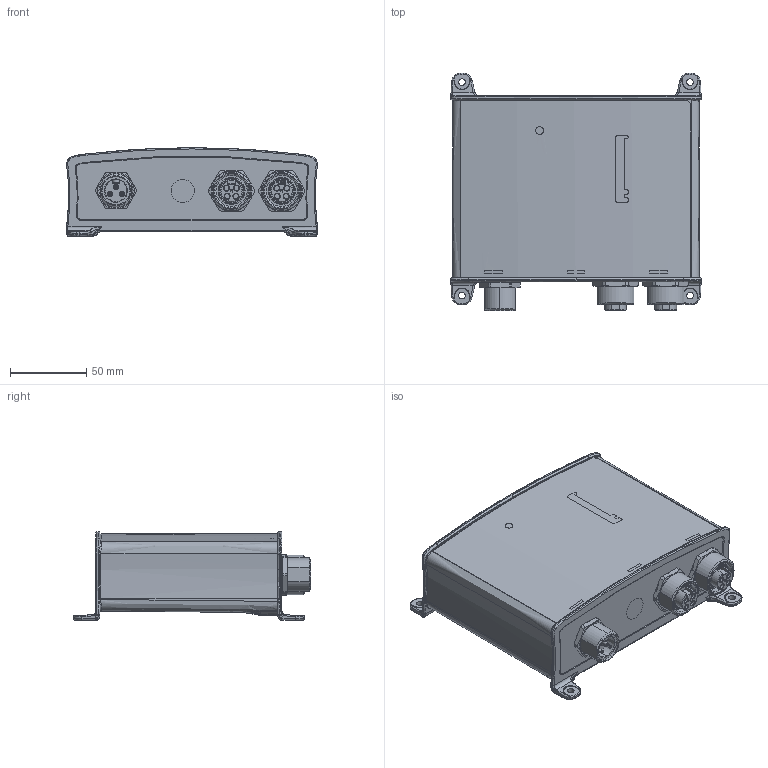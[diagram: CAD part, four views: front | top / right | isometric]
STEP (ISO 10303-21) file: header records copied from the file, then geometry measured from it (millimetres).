
FILE_DESCRIPTION (( 'STEP AP214' ), '1' );
FILE_NAME ('A-472_00 TLA assy 100W - 1007416-000SWA03.STP', '2026-03-12T07:46:41', ( '' ), ( '' ), 'SwSTEP 2.0', 'SolidWorks 2024', '' );
FILE_SCHEMA (( 'AUTOMOTIVE_DESIGN' ));
Length unit declared in the file: millimetre
Products named in the file (9): 1025452_000; 1027129_000; 1007410_000_without_cutout_with_overlay; 1022707_000_Black; A-472_00 TLA assy 100W - 1007416-000SWA03; 1025432_000_Standard; 1022708_000_BLACK; 1037861_000; 1015411_000_Feat_Config
Assembly tree (9 placements, depth 2):
  A-472_00 TLA assy 100W - 1007416-000SWA03
    1022707_000_Black
    1022708_000_BLACK
    1015411_000_Feat_Config
    1027129_000  x2
    1025452_000
    1025432_000_Standard
    1037861_000
    1007410_000_without_cutout_with_overlay
Bounding box: 164.8 x 156.25 x 58.24 mm (x, y, z)
Volume: 257778.2 mm3; surface area: 222824.9 mm2
Topology: 14 solids, 16 shells, 3655 faces, 9169 edges, 5821 vertices
Faces by surface type: plane 1506, bspline 889, cylinder 662, cone 380, torus 206, sphere 12
Entity records: 166618 total; most frequent: CARTESIAN_POINT 90324, ORIENTED_EDGE 17406, DIRECTION 13153, EDGE_CURVE 8703, VERTEX_POINT 5548, VECTOR 4407, LINE 4407, AXIS2_PLACEMENT_3D 4373
